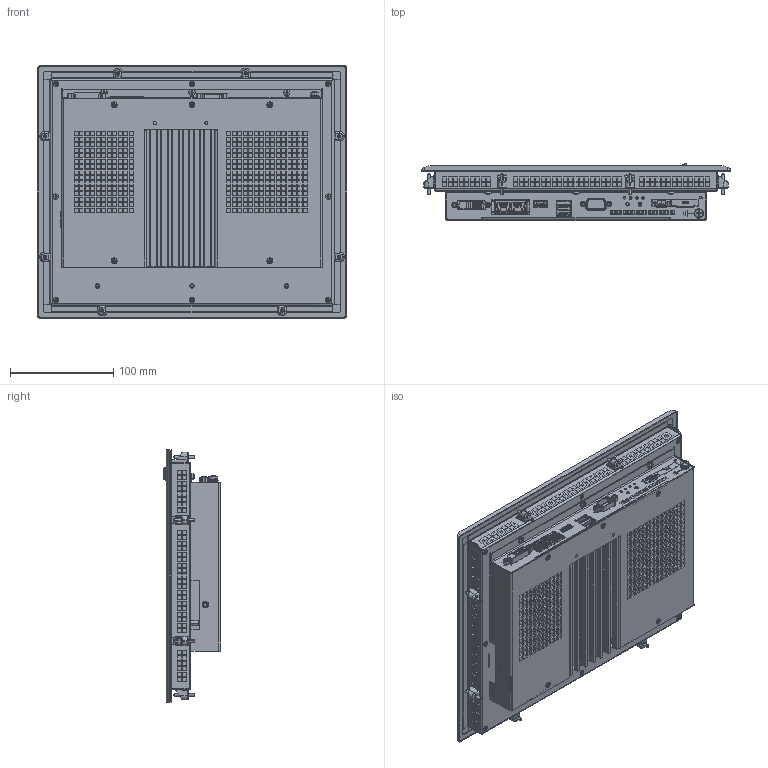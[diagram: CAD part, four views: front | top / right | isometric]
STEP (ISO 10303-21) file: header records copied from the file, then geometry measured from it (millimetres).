
FILE_DESCRIPTION((''),'2;1');
FILE_NAME('C6E22-Panel_104_RES_SL','2017-02-23T',('manpal'),(''),'PRO/ENGINEER BY PARAMETRIC TECHNOLOGY CORPORATION, 2013410','PRO/ENGINEER BY PARAMETRIC TECHNOLOGY CORPORATION, 2013410','');
FILE_SCHEMA(('AUTOMOTIVE_DESIGN { 1 0 10303 214 1 1 1 1 }'));
Products named in the file (1): C6E22-Panel_104_RES_SL_
Bounding box: 300 x 55.84 x 245 mm (x, y, z)
Surface area: 496276.1 mm2 (no closed solid volume)
Topology: 0 solids, 329 shells, 4786 faces, 18736 edges, 14108 vertices
Faces by surface type: plane 3714, cylinder 625, cone 273, bspline 110, torus 35, sphere 25, extrusion 4
Entity records: 216953 total; most frequent: CARTESIAN_POINT 47979, DIRECTION 29976, ORIENTED_EDGE 27468, EDGE_CURVE 18684, VECTOR 15138, LINE 15134, VERTEX_POINT 14108, AXIS2_PLACEMENT_3D 7419
